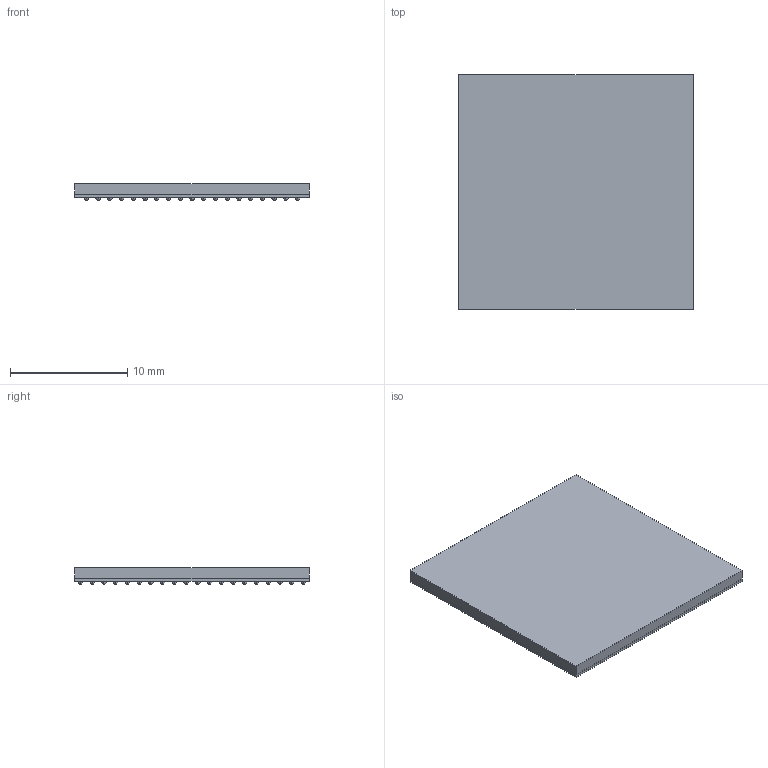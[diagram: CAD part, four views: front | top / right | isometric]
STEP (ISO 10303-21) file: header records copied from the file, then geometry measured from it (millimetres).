
FILE_DESCRIPTION (( 'STEP AP214' ), '1' );
FILE_NAME ('SD20442-000_POD_224FBGA_20.00X20.00_1.00_MAX 1.51T(0.90MM MOLD)_STEP.STEP', '2025-06-24T01:16:26', ( 'HD2022110801S' ), ( '' ), 'SwSTEP 2.0', 'SolidWorks 2022', '' );
FILE_SCHEMA (( 'AUTOMOTIVE_DESIGN' ));
Length unit declared in the file: millimetre
Products named in the file (4): Mold; SD20442-000_POD_224FBGA_20.00X20.00_1.00_MAX 1.51T(0.90MM MOLD)_STEP; Sub; Solder_Ball
Assembly tree (226 placements, depth 2):
  SD20442-000_POD_224FBGA_20.00X20.00_1.00_MAX 1.51T(0.90MM MOLD)_STEP
    Sub
    Mold
    Solder_Ball  x224
Bounding box: 20 x 20 x 1.43 mm (x, y, z)
Volume: 468.9 mm3; surface area: 1790.5 mm2
Topology: 226 solids, 226 shells, 2028 faces, 4728 edges, 3152 vertices
Faces by surface type: cylinder 896, plane 684, sphere 448
Entity records: 20312 total; most frequent: DIRECTION 4120, CARTESIAN_POINT 3216, ORIENTED_EDGE 2756, AXIS2_PLACEMENT_3D 1823, EDGE_CURVE 1378, VERTEX_POINT 919, EDGE_LOOP 915, CIRCLE 904
